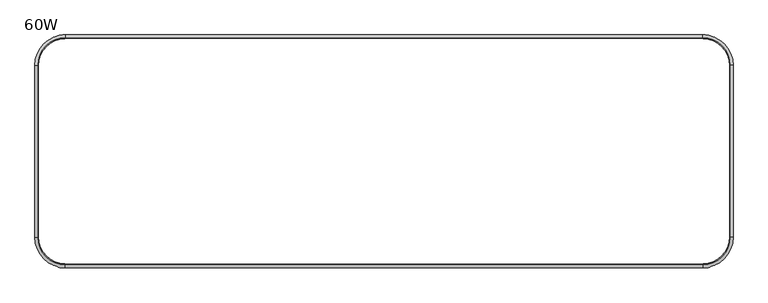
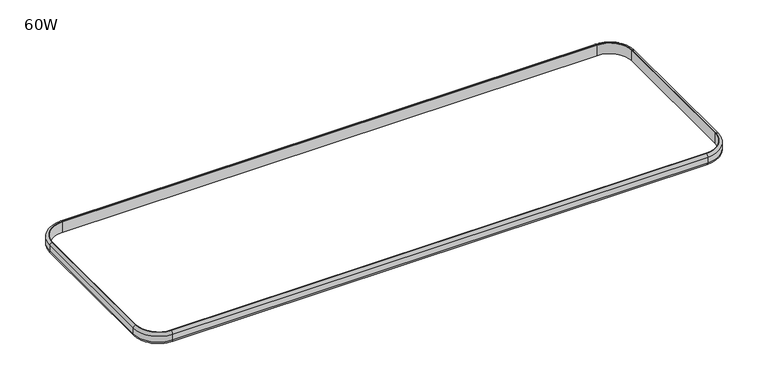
"""IFC4 building model written with IfcOpenShell, lengths in millimetres: furniture geometry, SmithSystem_AM_Table_Education_Interchange_Activity_20D : 60W."""

from ifc_helpers import new_model, si_unit, point, frame, origin, place, context, project, spatial, polyline, circle_curve, ellipse_curve, trimmed, source, transform, mapped, element, save
from ifc_brep_helpers import plane_surface, cylinder_surface, revolved_surface, advanced_brep


def furniture_60w_52230fc8(model_context):
    return source(origin(), model_context, "Body", "AdvancedBrep", [
        advanced_brep(
        [(66.04, 0.0, 917.54615), (66.04, 6.35, 911.19615), (1457.96, 6.35, 911.19615), (1457.96, 0.0, 917.54615), (66.04, 0.0, 933.45), (1457.96, 0.0, 933.45), (66.04, 6.35, 939.8), (1457.96, 6.35, 939.8), (66.04, 8.89, 911.19615), (66.04, 8.89, 939.8), (1457.96, 8.89, 939.8), (1457.96, 8.89, 911.19615), (1524.0, 66.04, 917.54615), (1517.65, 66.04, 911.19615), (1524.0, 66.04, 933.45), (1517.65, 66.04, 939.8), (1515.11, 66.04, 911.19615), (1515.11, 66.04, 939.8), (1517.65, 441.9608295, 911.19615), (1524.0, 441.9608295, 917.54615), (1524.0, 441.9608295, 933.45), (1517.65, 441.9608295, 939.8), (1515.11, 441.9608295, 939.8), (1515.11, 441.9608295, 911.19615), (1457.96, 508.0008295, 917.54615), (1457.96, 501.6508295, 911.19615), (1457.96, 508.0008295, 933.45), (1457.96, 501.6508295, 939.8), (1457.96, 499.1108295, 911.19615), (1457.96, 499.1108295, 939.8), (0.0, 441.9608295, 917.54615), (66.04, 508.0008295, 917.54615), (66.04, 501.6508295, 911.19615), (6.35, 441.9608295, 911.19615), (0.0, 441.9608295, 933.45), (66.04, 508.0008295, 933.45), (6.35, 441.9608295, 939.8), (66.04, 501.6508295, 939.8), (8.89, 441.9608295, 911.19615), (66.04, 499.1108295, 911.19615), (66.04, 499.1108295, 939.8), (8.89, 441.9608295, 939.8), (6.35, 66.04, 911.19615), (0.0, 66.04, 917.54615), (0.0, 66.04, 933.45), (6.35, 66.04, 939.8), (8.89, 66.04, 939.8), (8.89, 66.04, 911.19615)],
        [
            (0, 1, circle_curve(frame((66.04, 6.35, 917.54615), z_axis=(1.0, 0.0, 0.0), x_axis=(0.0, 1.0, 0.0)), 6.35)),
            (1, 2),
            (2, 3, circle_curve(frame((1457.96, 6.35, 917.54615), z_axis=(-1.0, 0.0, 0.0), x_axis=(0.0, 1.0, 0.0)), 6.35)),
            (3, 0),
            (4, 0),
            (3, 5),
            (5, 4),
            (6, 4, circle_curve(frame((66.04, 6.35, 933.45), z_axis=(1.0, 0.0, 0.0), x_axis=(0.0, 1.0, 0.0)), 6.35)),
            (5, 7, circle_curve(frame((1457.96, 6.35, 933.45), z_axis=(-1.0, 0.0, 0.0), x_axis=(0.0, 1.0, 0.0)), 6.35)),
            (7, 6),
            (8, 9),
            (9, 10),
            (10, 11),
            (11, 8),
            (12, 3, circle_curve(frame((1457.96, 66.04, 917.54615), z_axis=(0.0, 0.0, -1.0), x_axis=(0.0, -1.0, 0.0)), 66.04)),
            (2, 13, circle_curve(frame((1457.96, 66.04, 911.19615), z_axis=(0.0, 0.0, 1.0), x_axis=(0.0, -1.0, 0.0)), 59.69)),
            (13, 12, circle_curve(frame((1517.65, 66.04, 917.54615), z_axis=(0.0, -1.0, 0.0), x_axis=(-1.0, 0.0, 0.0)), 6.35)),
            (14, 5, circle_curve(frame((1457.96, 66.04, 933.45), z_axis=(0.0, 0.0, -1.0), x_axis=(0.0, -1.0, 0.0)), 66.04)),
            (12, 14),
            (15, 7, circle_curve(frame((1457.96, 66.04, 939.8), z_axis=(0.0, 0.0, -1.0), x_axis=(0.0, -1.0, 0.0)), 59.69)),
            (14, 15, circle_curve(frame((1517.65, 66.04, 933.45), z_axis=(0.0, -1.0, 0.0), x_axis=(-1.0, 0.0, 0.0)), 6.35)),
            (16, 11, circle_curve(frame((1457.96, 66.04, 911.19615), z_axis=(0.0, 0.0, -1.0), x_axis=(0.0, -1.0, 0.0)), 57.15)),
            (10, 17, circle_curve(frame((1457.96, 66.04, 939.8), z_axis=(0.0, 0.0, 1.0), x_axis=(0.0, -1.0, 0.0)), 57.15)),
            (17, 16),
            (13, 18),
            (18, 19, circle_curve(frame((1517.65, 441.9608295, 917.54615), z_axis=(0.0, -1.0, 0.0), x_axis=(-1.0, 0.0, 0.0)), 6.35)),
            (19, 12),
            (19, 20),
            (20, 14),
            (20, 21, circle_curve(frame((1517.65, 441.9608295, 933.45), z_axis=(0.0, -1.0, 0.0), x_axis=(-1.0, 0.0, 0.0)), 6.35)),
            (21, 15),
            (17, 22),
            (22, 23),
            (23, 16),
            (24, 19, circle_curve(frame((1457.96, 441.9608295, 917.54615), z_axis=(0.0, 0.0, -1.0), x_axis=(1.0, 0.0, 0.0)), 66.04)),
            (18, 25, circle_curve(frame((1457.96, 441.9608295, 911.19615), z_axis=(0.0, 0.0, 1.0), x_axis=(1.0, 0.0, 0.0)), 59.69)),
            (25, 24, circle_curve(frame((1457.96, 501.6508295, 917.54615), z_axis=(1.0, 0.0, 0.0), x_axis=(0.0, -1.0, 0.0)), 6.35)),
            (26, 20, circle_curve(frame((1457.96, 441.9608295, 933.45), z_axis=(0.0, 0.0, -1.0), x_axis=(1.0, 0.0, 0.0)), 66.04)),
            (24, 26),
            (27, 21, circle_curve(frame((1457.96, 441.9608295, 939.8), z_axis=(0.0, 0.0, -1.0), x_axis=(1.0, 0.0, 0.0)), 59.69)),
            (26, 27, circle_curve(frame((1457.96, 501.6508295, 933.45), z_axis=(1.0, 0.0, 0.0), x_axis=(0.0, -1.0, 0.0)), 6.35)),
            (28, 23, circle_curve(frame((1457.96, 441.9608295, 911.19615), z_axis=(0.0, 0.0, -1.0), x_axis=(1.0, 0.0, 0.0)), 57.15)),
            (22, 29, circle_curve(frame((1457.96, 441.9608295, 939.8), z_axis=(0.0, 0.0, 1.0), x_axis=(1.0, 0.0, 0.0)), 57.15)),
            (29, 28),
            (30, 31, circle_curve(frame((66.04, 441.9608295, 917.54615), z_axis=(0.0, 0.0, -1.0), x_axis=(0.0, 1.0, 0.0)), 66.04)),
            (31, 32, circle_curve(frame((66.04, 501.6508295, 917.54615), z_axis=(-1.0, 0.0, 0.0), x_axis=(0.0, -1.0, 0.0)), 6.35)),
            (32, 33, circle_curve(frame((66.04, 441.9608295, 911.19615), z_axis=(0.0, 0.0, 1.0), x_axis=(0.0, 1.0, 0.0)), 59.69)),
            (33, 30, circle_curve(frame((6.35, 441.9608295, 917.54615), z_axis=(0.0, 1.0, 0.0), x_axis=(1.0, 0.0, 0.0)), 6.35)),
            (34, 35, circle_curve(frame((66.04, 441.9608295, 933.45), z_axis=(0.0, 0.0, -1.0), x_axis=(0.0, 1.0, 0.0)), 66.04)),
            (35, 31),
            (30, 34),
            (36, 37, circle_curve(frame((66.04, 441.9608295, 939.8), z_axis=(0.0, 0.0, -1.0), x_axis=(0.0, 1.0, 0.0)), 59.69)),
            (37, 35, circle_curve(frame((66.04, 501.6508295, 933.45), z_axis=(-1.0, 0.0, 0.0), x_axis=(0.0, -1.0, 0.0)), 6.35)),
            (34, 36, circle_curve(frame((6.35, 441.9608295, 933.45), z_axis=(0.0, 1.0, 0.0), x_axis=(1.0, 0.0, 0.0)), 6.35)),
            (38, 39, circle_curve(frame((66.04, 441.9608295, 911.19615), z_axis=(0.0, 0.0, -1.0), x_axis=(0.0, 1.0, 0.0)), 57.15)),
            (39, 40),
            (40, 41, circle_curve(frame((66.04, 441.9608295, 939.8), z_axis=(0.0, 0.0, 1.0), x_axis=(0.0, 1.0, 0.0)), 57.15)),
            (41, 38),
            (33, 42),
            (42, 43, circle_curve(frame((6.35, 66.04, 917.54615), z_axis=(0.0, 1.0, 0.0), x_axis=(1.0, 0.0, 0.0)), 6.35)),
            (43, 30),
            (43, 44),
            (44, 34),
            (44, 45, circle_curve(frame((6.35, 66.04, 933.45), z_axis=(0.0, 1.0, 0.0), x_axis=(1.0, 0.0, 0.0)), 6.35)),
            (45, 36),
            (41, 46),
            (46, 47),
            (47, 38),
            (0, 43, circle_curve(frame((66.04, 66.04, 917.54615), z_axis=(0.0, 0.0, -1.0), x_axis=(-1.0, 0.0, 0.0)), 66.04)),
            (42, 1, circle_curve(frame((66.04, 66.04, 911.19615), z_axis=(0.0, 0.0, 1.0), x_axis=(-1.0, 0.0, 0.0)), 59.69)),
            (4, 44, circle_curve(frame((66.04, 66.04, 933.45), z_axis=(0.0, 0.0, -1.0), x_axis=(-1.0, 0.0, 0.0)), 66.04)),
            (6, 45, circle_curve(frame((66.04, 66.04, 939.8), z_axis=(0.0, 0.0, -1.0), x_axis=(-1.0, 0.0, 0.0)), 59.69)),
            (8, 47, circle_curve(frame((66.04, 66.04, 911.19615), z_axis=(0.0, 0.0, -1.0), x_axis=(-1.0, 0.0, 0.0)), 57.15)),
            (46, 9, circle_curve(frame((66.04, 66.04, 939.8), z_axis=(0.0, 0.0, 1.0), x_axis=(-1.0, 0.0, 0.0)), 57.15)),
            (32, 25),
            (28, 39),
            (31, 24),
            (35, 26),
            (37, 27),
            (40, 29),
        ],
        [
            cylinder_surface(frame((66.04, 6.35, 917.54615), z_axis=(-1.0, 0.0, 0.0), x_axis=(0.0, 1.0, 0.0)), 6.35),
            plane_surface(frame((66.04, 0.0, 917.54615), z_axis=(0.0, -1.0, 0.0), x_axis=(1.0, 0.0, 0.0))),
            cylinder_surface(frame((66.04, 6.35, 933.45), z_axis=(-1.0, 0.0, 0.0), x_axis=(0.0, 1.0, 0.0)), 6.35),
            plane_surface(frame((66.04, 8.89, 939.8), z_axis=(0.0, 1.0, 0.0), x_axis=(1.0, 0.0, 0.0))),
            revolved_surface(trimmed(ellipse_curve(frame((1457.96, 6.35, 917.54615), z_axis=(-1.0, 0.0, 0.0), x_axis=(0.0, 1.0, 0.0)), 6.35, 6.35), [point((1457.96, 6.35, 911.19615))], [point((1457.96, 0.0, 917.54615))], True, "CARTESIAN"), (1457.96, 66.04, 0.0), (0.0, 0.0, 1.0)),
            cylinder_surface(frame((1457.96, 66.04, 0.0), z_axis=(0.0, 0.0, 1.0), x_axis=(0.0, -1.0, 0.0)), 66.04),
            revolved_surface(trimmed(ellipse_curve(frame((1457.96, 6.35, 933.45), z_axis=(-1.0, 0.0, 0.0), x_axis=(0.0, 1.0, 0.0)), 6.35, 6.35), [point((1457.96, 0.0, 933.45))], [point((1457.96, 6.35, 939.8))], True, "CARTESIAN"), (1457.96, 66.04, 0.0), (0.0, 0.0, 1.0)),
            revolved_surface(polyline([(1457.96, 8.890000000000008, 939.8), (1457.96, 8.890000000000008, 911.19615)]), (1457.96, 66.04, 0.0), (0.0, 0.0, 1.0)),
            cylinder_surface(frame((1517.65, 66.04, 917.54615), z_axis=(0.0, -1.0, 0.0), x_axis=(-1.0, 0.0, 0.0)), 6.35),
            plane_surface(frame((1524.0, 66.04, 917.54615), z_axis=(1.0, 0.0, 0.0), x_axis=(0.0, 1.0, 0.0))),
            cylinder_surface(frame((1517.65, 66.04, 933.45), z_axis=(0.0, -1.0, 0.0), x_axis=(-1.0, 0.0, 0.0)), 6.35),
            plane_surface(frame((1515.11, 66.04, 939.8), z_axis=(-1.0, 0.0, 0.0), x_axis=(0.0, 1.0, 0.0))),
            revolved_surface(trimmed(ellipse_curve(frame((1517.65, 441.9608295, 917.54615), z_axis=(0.0, -1.0, 0.0), x_axis=(-1.0, 0.0, 0.0)), 6.35, 6.35), [point((1517.65, 441.9608295, 911.19615))], [point((1524.0, 441.9608295, 917.54615))], True, "CARTESIAN"), (1457.96, 441.9608295, 0.0), (0.0, 0.0, 1.0)),
            cylinder_surface(frame((1457.96, 441.9608295, 0.0), z_axis=(0.0, 0.0, 1.0), x_axis=(1.0, 0.0, 0.0)), 66.04),
            revolved_surface(trimmed(ellipse_curve(frame((1517.65, 441.9608295, 933.45), z_axis=(0.0, -1.0, 0.0), x_axis=(-1.0, 0.0, 0.0)), 6.35, 6.35), [point((1524.0, 441.9608295, 933.45))], [point((1517.65, 441.9608295, 939.8))], True, "CARTESIAN"), (1457.96, 441.9608295, 0.0), (0.0, 0.0, 1.0)),
            revolved_surface(polyline([(1515.1100000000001, 441.9608295, 939.8), (1515.1100000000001, 441.9608295, 911.19615)]), (1457.96, 441.9608295, 0.0), (0.0, 0.0, 1.0)),
            revolved_surface(trimmed(ellipse_curve(frame((66.04, 501.6508295, 917.54615), z_axis=(1.0, 0.0, 0.0), x_axis=(0.0, -1.0, 0.0)), 6.35, 6.35), [point((66.04, 501.6508295, 911.19615))], [point((66.04, 508.0008295, 917.54615))], True, "CARTESIAN"), (66.04, 441.9608295, 0.0), (0.0, 0.0, 1.0)),
            cylinder_surface(frame((66.04, 441.9608295, 0.0), z_axis=(0.0, 0.0, 1.0), x_axis=(0.0, 1.0, 0.0)), 66.04),
            revolved_surface(trimmed(ellipse_curve(frame((66.04, 501.6508295, 933.45), z_axis=(1.0, 0.0, 0.0), x_axis=(0.0, -1.0, 0.0)), 6.35, 6.35), [point((66.04, 508.0008295, 933.45))], [point((66.04, 501.6508295, 939.8))], True, "CARTESIAN"), (66.04, 441.9608295, 0.0), (0.0, 0.0, 1.0)),
            revolved_surface(polyline([(66.04, 499.11082949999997, 939.8), (66.04, 499.11082949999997, 911.19615)]), (66.04, 441.9608295, 0.0), (0.0, 0.0, 1.0)),
            cylinder_surface(frame((6.35, 441.9608295, 917.54615), z_axis=(0.0, 1.0, 0.0), x_axis=(1.0, 0.0, 0.0)), 6.35),
            plane_surface(frame((0.0, 441.9608295, 917.54615), z_axis=(-1.0, 0.0, 0.0), x_axis=(0.0, -1.0, 0.0))),
            cylinder_surface(frame((6.35, 441.9608295, 933.45), z_axis=(0.0, 1.0, 0.0), x_axis=(1.0, 0.0, 0.0)), 6.35),
            plane_surface(frame((8.89, 441.9608295, 939.8), z_axis=(1.0, 0.0, 0.0), x_axis=(0.0, -1.0, 0.0))),
            revolved_surface(trimmed(ellipse_curve(frame((6.35, 66.04, 917.54615), z_axis=(0.0, 1.0, 0.0), x_axis=(1.0, 0.0, 0.0)), 6.35, 6.35), [point((6.35, 66.04, 911.19615))], [point((0.0, 66.04, 917.54615))], True, "CARTESIAN"), (66.04, 66.04, 0.0), (0.0, 0.0, 1.0)),
            cylinder_surface(frame((66.04, 66.04, 0.0), z_axis=(0.0, 0.0, 1.0), x_axis=(-1.0, 0.0, 0.0)), 66.04),
            revolved_surface(trimmed(ellipse_curve(frame((6.35, 66.04, 933.45), z_axis=(0.0, 1.0, 0.0), x_axis=(1.0, 0.0, 0.0)), 6.35, 6.35), [point((0.0, 66.04, 933.45))], [point((6.35, 66.04, 939.8))], True, "CARTESIAN"), (66.04, 66.04, 0.0), (0.0, 0.0, 1.0)),
            revolved_surface(polyline([(8.890000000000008, 66.04, 939.8), (8.890000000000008, 66.04, 911.19615)]), (66.04, 66.04, 0.0), (0.0, 0.0, 1.0)),
            plane_surface(frame((1457.96, 499.1108295, 911.19615), z_axis=(0.0, 0.0, -1.0), x_axis=(-1.0, 0.0, 0.0))),
            cylinder_surface(frame((1457.96, 501.6508295, 917.54615), z_axis=(1.0, 0.0, 0.0), x_axis=(0.0, -1.0, 0.0)), 6.35),
            plane_surface(frame((1457.96, 508.0008295, 917.54615), z_axis=(0.0, 1.0, 0.0), x_axis=(-1.0, 0.0, 0.0))),
            cylinder_surface(frame((1457.96, 501.6508295, 933.45), z_axis=(1.0, 0.0, 0.0), x_axis=(0.0, -1.0, 0.0)), 6.35),
            plane_surface(frame((1457.96, 501.6508295, 939.8), z_axis=(0.0, 0.0, 1.0), x_axis=(-1.0, 0.0, 0.0))),
            plane_surface(frame((1457.96, 499.1108295, 939.8), z_axis=(0.0, -1.0, 0.0), x_axis=(-1.0, 0.0, 0.0))),
        ],
        [
            (0, [[1, 2, 3, 4]]),
            (1, [[5, -4, 6, 7]]),
            (2, [[8, -7, 9, 10]]),
            (3, [[11, 12, 13, 14]]),
            (4, [[15, -3, 16, 17]]),
            (5, [[18, -6, -15, 19]]),
            (6, [[20, -9, -18, 21]]),
            (7, [[22, -13, 23, 24]]),
            (8, [[-17, 25, 26, 27]]),
            (9, [[-19, -27, 28, 29]]),
            (10, [[-21, -29, 30, 31]]),
            (11, [[-24, 32, 33, 34]]),
            (12, [[35, -26, 36, 37]]),
            (13, [[38, -28, -35, 39]]),
            (14, [[40, -30, -38, 41]]),
            (15, [[42, -33, 43, 44]]),
            (16, [[45, 46, 47, 48]]),
            (17, [[49, 50, -45, 51]]),
            (18, [[52, 53, -49, 54]]),
            (19, [[55, 56, 57, 58]]),
            (20, [[-48, 59, 60, 61]]),
            (21, [[-51, -61, 62, 63]]),
            (22, [[-54, -63, 64, 65]]),
            (23, [[-58, 66, 67, 68]]),
            (24, [[69, -60, 70, -1]]),
            (25, [[71, -62, -69, -5]]),
            (26, [[72, -64, -71, -8]]),
            (27, [[73, -67, 74, -11]]),
            (28, [[75, -36, -25, -16, -2, -70, -59, -47], [-68, -73, -14, -22, -34, -42, 76, -55]]),
            (29, [[-37, -75, -46, 77]]),
            (30, [[-39, -77, -50, 78]]),
            (31, [[-41, -78, -53, 79]]),
            (32, [[-65, -72, -10, -20, -31, -40, -79, -52], [80, -43, -32, -23, -12, -74, -66, -57]]),
            (33, [[-44, -80, -56, -76]]),
        ],
    ),
    ])


if __name__ == "__main__":
    model = new_model("IFC4")
    model_context = context("Model", 3, world=origin())
    ifc_project = project(units=[si_unit("LENGTHUNIT", "METRE", prefix="MILLI")], contexts=[model_context])
    site = spatial("IfcSite", under=ifc_project)
    building = spatial("IfcBuilding", under=site)
    placement = place(None, origin())
    furniture_60w_shape = furniture_60w_52230fc8(model_context)
    element("IfcFurniture", 1, ObjectType="SmithSystem_AM_Table_Education_Interchange_Activity_20D : 60W", at=placement, inside=building, context=model_context, shape_type="MappedRepresentation", body=[
        mapped(furniture_60w_shape, transform((0.0, 0.0, 0.0), x_axis=(1.0, 0.0, 0.0), y_axis=(0.0, 1.0, 0.0), z_axis=(0.0, 0.0, 1.0))),
    ])
    save(model, "model.ifc")
